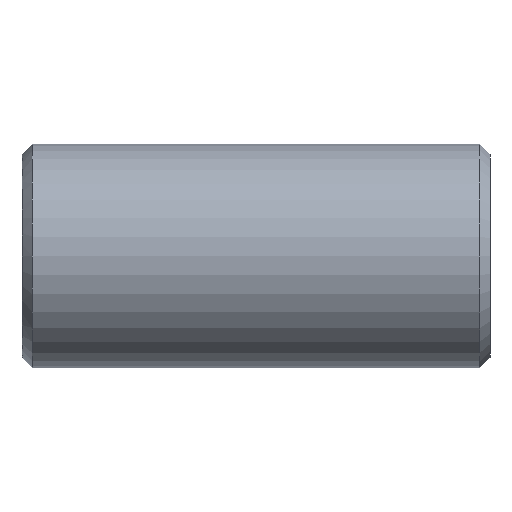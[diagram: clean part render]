
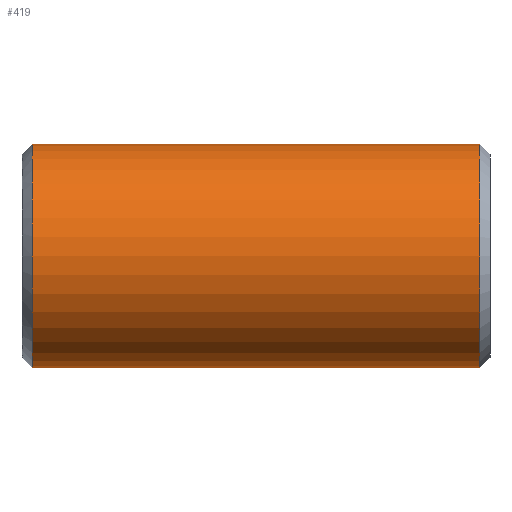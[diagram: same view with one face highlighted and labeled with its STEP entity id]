
A CAD part, front view. The second image highlights one B-rep face of the part: STEP entity #419.
In plain terms, the highlighted cylindrical face has radius 11 mm (diameter 22 mm), a partial arc.
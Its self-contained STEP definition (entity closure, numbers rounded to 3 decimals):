
#231=CARTESIAN_POINT('Vertex',(1.,0.,-11.)) ;
#238=CARTESIAN_POINT('Vertex',(1.,0.,11.)) ;
#267=CARTESIAN_POINT('Axis2P3D Location',(1.,0.,0.)) ;
#271=CARTESIAN_POINT('Vertex',(1.,-11.,0.)) ;
#274=CARTESIAN_POINT('Axis2P3D Location',(1.,0.,0.)) ;
#359=CARTESIAN_POINT('Line Origine',(46.,0.,11.)) ;
#363=CARTESIAN_POINT('Vertex',(45.,0.,11.)) ;
#377=CARTESIAN_POINT('Vertex',(45.,0.,-11.)) ;
#380=CARTESIAN_POINT('Line Origine',(46.,0.,-11.)) ;
#394=CARTESIAN_POINT('Axis2P3D Location',(46.,0.,0.)) ;
#399=CARTESIAN_POINT('Axis2P3D Location',(45.,0.,0.)) ;
#403=CARTESIAN_POINT('Vertex',(45.,-11.,0.)) ;
#406=CARTESIAN_POINT('Axis2P3D Location',(45.,0.,0.)) ;
#268=DIRECTION('Axis2P3D Direction',(1.,0.,-0.)) ;
#275=DIRECTION('Axis2P3D Direction',(1.,0.,-0.)) ;
#360=DIRECTION('Vector Direction',(-1.,0.,0.)) ;
#381=DIRECTION('Vector Direction',(-1.,0.,0.)) ;
#395=DIRECTION('Axis2P3D Direction',(-1.,-0.,-0.)) ;
#396=DIRECTION('Axis2P3D XDirection',(0.,0.,-1.)) ;
#400=DIRECTION('Axis2P3D Direction',(-1.,-0.,-0.)) ;
#407=DIRECTION('Axis2P3D Direction',(-1.,-0.,-0.)) ;
#269=AXIS2_PLACEMENT_3D('Circle Axis2P3D',#267,#268,$) ;
#276=AXIS2_PLACEMENT_3D('Circle Axis2P3D',#274,#275,$) ;
#397=AXIS2_PLACEMENT_3D('Cylinder Axis2P3D',#394,#395,#396) ;
#401=AXIS2_PLACEMENT_3D('Circle Axis2P3D',#399,#400,$) ;
#408=AXIS2_PLACEMENT_3D('Circle Axis2P3D',#406,#407,$) ;
#412=ORIENTED_EDGE('',*,*,#384,.T.) ;
#413=ORIENTED_EDGE('',*,*,#405,.F.) ;
#414=ORIENTED_EDGE('',*,*,#410,.F.) ;
#415=ORIENTED_EDGE('',*,*,#365,.T.) ;
#416=ORIENTED_EDGE('',*,*,#278,.T.) ;
#417=ORIENTED_EDGE('',*,*,#273,.T.) ;
#361=VECTOR('Line Direction',#360,1.) ;
#382=VECTOR('Line Direction',#381,1.) ;
#419=ADVANCED_FACE('352-16X46',(#418),#398,.T.) ;
#270=CIRCLE('generated circle',#269,11.) ;
#277=CIRCLE('generated circle',#276,11.) ;
#402=CIRCLE('generated circle',#401,11.) ;
#409=CIRCLE('generated circle',#408,11.) ;
#398=CYLINDRICAL_SURFACE('generated cylinder',#397,11.) ;
#273=EDGE_CURVE('',#272,#232,#270,.T.) ;
#278=EDGE_CURVE('',#239,#272,#277,.T.) ;
#365=EDGE_CURVE('',#364,#239,#362,.T.) ;
#384=EDGE_CURVE('',#232,#378,#383,.F.) ;
#405=EDGE_CURVE('',#404,#378,#402,.F.) ;
#410=EDGE_CURVE('',#364,#404,#409,.F.) ;
#411=EDGE_LOOP('',(#412,#413,#414,#415,#416,#417)) ;
#418=FACE_OUTER_BOUND('',#411,.T.) ;
#362=LINE('Line',#359,#361) ;
#383=LINE('Line',#380,#382) ;
#232=VERTEX_POINT('',#231) ;
#239=VERTEX_POINT('',#238) ;
#272=VERTEX_POINT('',#271) ;
#364=VERTEX_POINT('',#363) ;
#378=VERTEX_POINT('',#377) ;
#404=VERTEX_POINT('',#403) ;
